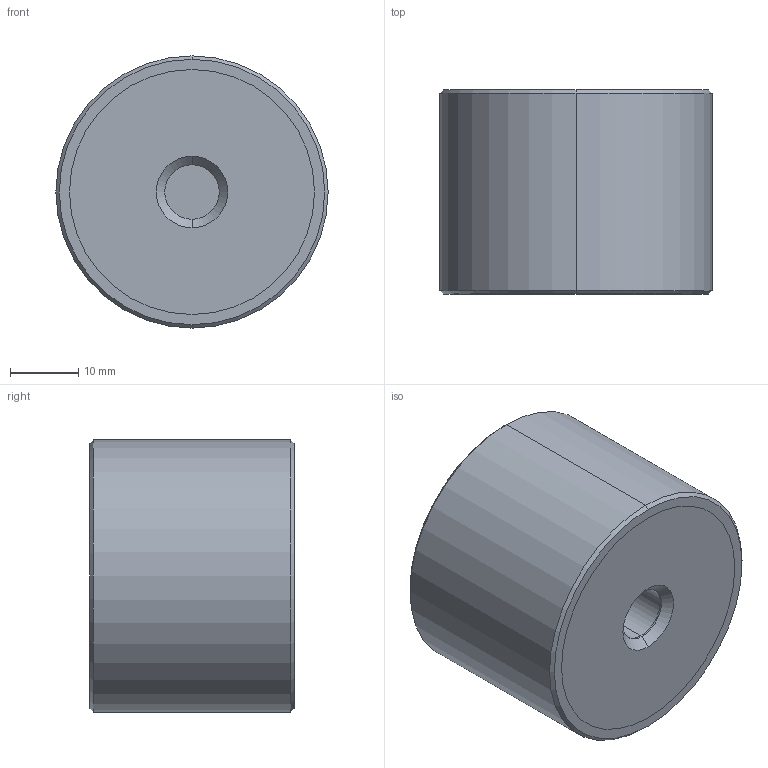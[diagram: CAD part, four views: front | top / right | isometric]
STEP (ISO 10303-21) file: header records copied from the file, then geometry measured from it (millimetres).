
FILE_DESCRIPTION (( 'STEP AP203' ), '1' );
FILE_NAME ('61080.W0401.step', '2018-07-16T20:44:28', ( '' ), ( '' ), 'SwSTEP 2.0', 'SolidWorks 2017', '' );
FILE_SCHEMA (( 'CONFIG_CONTROL_DESIGN' ));
Length unit declared in the file: millimetre
Products named in the file (4): Part2_61080.W0401; 61080.W0401; Part3_61080.W0401; Part1_61080.W0401
Assembly tree (3 placements, depth 2):
  61080.W0401
    Part1_61080.W0401
    Part2_61080.W0401
    Part3_61080.W0401
Bounding box: 40 x 30 x 40 mm (x, y, z)
Volume: 36820.3 mm3; surface area: 11127.3 mm2
Topology: 3 solids, 3 shells, 36 faces, 70 edges, 44 vertices
Faces by surface type: cylinder 18, plane 10, cone 8
Entity records: 1356 total; most frequent: DIRECTION 198, CARTESIAN_POINT 156, ORIENTED_EDGE 140, AXIS2_PLACEMENT_3D 86, EDGE_CURVE 70, CIRCLE 44, VERTEX_POINT 44, EDGE_LOOP 44
